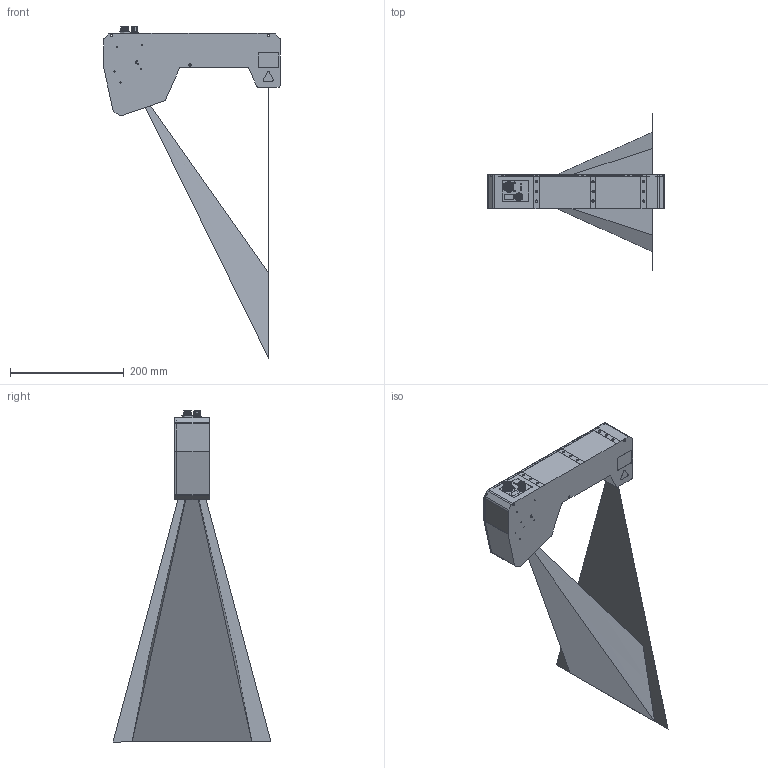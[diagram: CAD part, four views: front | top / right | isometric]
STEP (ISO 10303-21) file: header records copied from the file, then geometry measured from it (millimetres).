
FILE_DESCRIPTION(/* description */ (''),/* implementation_level */ '2;1');
FILE_NAME(/* name */ 'C6-S7-4090-CS-30-182-400-SX-1G-XXX-XX_Public.iam.stp',/* time_stamp */ '2025-06-12T15:05:14+02:00',/* author */ ('AT'),/* organization */ ('Automation Technology GmbH'),/* preprocessor_version */ 'ST-DEVELOPER v20',/* originating_system */ 'Autodesk Inventor 2024',/* authorisation */ '');
FILE_SCHEMA (('AUTOMOTIVE_DESIGN { 1 0 10303 214 3 1 1 }'));
Products named in the file (20): C6-S7-4090-CS-30-182-400-SX-1G-XXX-XX_Public; EO: 48-924; Glasscheibe2Zollx1; SACC-DSI-MS-17CON-M12 SCO SH_1437119-01; SACC-DSI-MS-17CON-M12 SCO SH_1437119_Stecker; SACC-DSI-MS-17CON-M12 SCO SH_1437119_Mutter; SACC-DSI-MS-17CON-M12 SCO SH_1437119_Pins; SACC-DSI-MS-17CON-M12 SCO SH_1437119_Kunststoffeinsatz; SACC-DSI-FS-8CON-L180_SCO SH_1553860-01; SACC-DSI-FS-8CON-L180_SCO SH_1553860_Stecker; SACC-DSI-FS-8CON-L180_SCO SH_1553860_Mutter; SACC-DSI-FS-8CON-L180_SCO SH_1553860_Kunststoffeinsatz; Screw GB/T 2672 M2,5 x 6; Screw GB/T 2672 M2,5 x 4; 1292.6001; 202209000-201; 202209000-203; 202202010-010; 202190016-009; C6-S7-4090-CS-30-182-400-SX-1G-XXX-XX_Strahlengang
Assembly tree (41 placements, depth 3):
  C6-S7-4090-CS-30-182-400-SX-1G-XXX-XX_Public
    EO: 48-924
    Glasscheibe2Zollx1
    SACC-DSI-MS-17CON-M12 SCO SH_1437119-01
      SACC-DSI-MS-17CON-M12 SCO SH_1437119_Stecker
      SACC-DSI-MS-17CON-M12 SCO SH_1437119_Mutter
      SACC-DSI-MS-17CON-M12 SCO SH_1437119_Pins
      SACC-DSI-MS-17CON-M12 SCO SH_1437119_Kunststoffeinsatz
    SACC-DSI-FS-8CON-L180_SCO SH_1553860-01
      SACC-DSI-FS-8CON-L180_SCO SH_1553860_Stecker
      SACC-DSI-FS-8CON-L180_SCO SH_1553860_Mutter
      SACC-DSI-FS-8CON-L180_SCO SH_1553860_Kunststoffeinsatz
    Screw GB/T 2672 M2,5 x 6  x12
    Screw GB/T 2672 M2,5 x 4  x8
    1292.6001  x5
    202209000-201
    202209000-203
    202202010-010
    202190016-009
    C6-S7-4090-CS-30-182-400-SX-1G-XXX-XX_Strahlengang
Bounding box: 310 x 277.16 x 582.8 mm (x, y, z)
Volume: 2613708.7 mm3; surface area: 478302 mm2
Topology: 56 solids, 57 shells, 2662 faces, 6434 edges, 3988 vertices
Faces by surface type: cylinder 1214, plane 996, bspline 181, cone 122, torus 95, sphere 54
Full cylindrical faces by diameter (mm): 0.217 x1, 0.6 x25, 0.63 x34, 0.9 x8, 1 x10, 1.1 x17, 1.2 x17, 1.5 x5, 1.567 x10, 1.6 x5, 2 x13, 2.013 x36, 2.208 x20, 2.4 x20, 2.5 x20, 2.6 x17, 2.8 x8, 4 x3, 4.134 x6, 4.4 x3, 5 x20, 5.2 x12, 5.5 x8, 7.7 x1, 8.25 x2, 8.3 x1, 8.7 x1, 10.5 x1, 10.7 x3, 10.917 x2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
Entity records: 93266 total; most frequent: CARTESIAN_POINT 46570, DIRECTION 9258, ORIENTED_EDGE 9248, EDGE_CURVE 4626, AXIS2_PLACEMENT_3D 3412, VERTEX_POINT 3050, LINE 2434, VECTOR 2434
